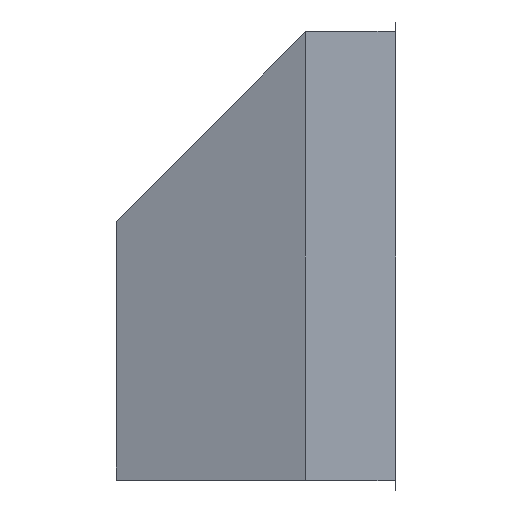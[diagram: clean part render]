
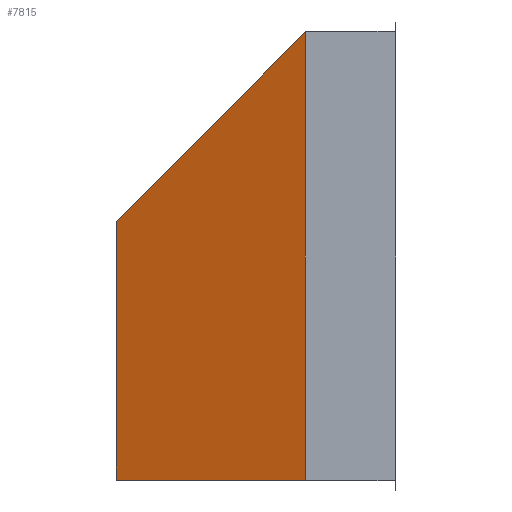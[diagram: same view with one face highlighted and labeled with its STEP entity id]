
A CAD part, left-side view. The second image highlights one B-rep face of the part: STEP entity #7815.
In plain terms, the highlighted planar face has unit normal (-0.94, 0.342, 0).
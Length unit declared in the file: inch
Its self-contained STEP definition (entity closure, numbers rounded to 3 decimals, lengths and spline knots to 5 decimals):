
#361=DIRECTION('',(-0.249,-0.685,0.685));
#362=VECTOR('',#361,13.87284);
#363=CARTESIAN_POINT('',(-25.70578,14.,13.));
#364=LINE('',#363,#362);
#477=DIRECTION('',(-0.342,-0.94,0.));
#478=VECTOR('',#477,10.10969);
#479=CARTESIAN_POINT('',(-25.70578,14.,0.));
#480=LINE('',#479,#478);
#498=DIRECTION('',(0.,0.,1.));
#499=VECTOR('',#498,13.);
#500=CARTESIAN_POINT('',(-25.70578,14.,0.));
#501=LINE('',#500,#499);
#512=DIRECTION('',(0.,0.,1.));
#513=VECTOR('',#512,22.5);
#514=CARTESIAN_POINT('',(-29.1635,4.5,0.));
#515=LINE('',#514,#513);
#6585=CARTESIAN_POINT('',(-29.1635,4.5,0.));
#6586=CARTESIAN_POINT('',(-29.1635,4.5,22.5));
#6587=VERTEX_POINT('',#6585);
#6588=VERTEX_POINT('',#6586);
#6589=CARTESIAN_POINT('',(-25.70578,14.,0.));
#6590=CARTESIAN_POINT('',(-25.70578,14.,13.));
#6591=VERTEX_POINT('',#6589);
#6592=VERTEX_POINT('',#6590);
#7803=CARTESIAN_POINT('',(-25.70578,14.,0.));
#7804=DIRECTION('',(-0.94,0.342,0.));
#7805=DIRECTION('',(-0.342,-0.94,0.));
#7806=AXIS2_PLACEMENT_3D('',#7803,#7804,#7805);
#7807=PLANE('',#7806);
#7809=ORIENTED_EDGE('',*,*,#7808,.F.);
#7810=ORIENTED_EDGE('',*,*,#7780,.F.);
#7811=ORIENTED_EDGE('',*,*,#7796,.T.);
#7812=ORIENTED_EDGE('',*,*,#7663,.T.);
#7813=EDGE_LOOP('',(#7809,#7810,#7811,#7812));
#7814=FACE_OUTER_BOUND('',#7813,.F.);
#7815=ADVANCED_FACE('',(#7814),#7807,.T.);
#7663=EDGE_CURVE('',#6592,#6588,#364,.T.);
#7780=EDGE_CURVE('',#6591,#6587,#480,.T.);
#7796=EDGE_CURVE('',#6591,#6592,#501,.T.);
#7808=EDGE_CURVE('',#6587,#6588,#515,.T.);
